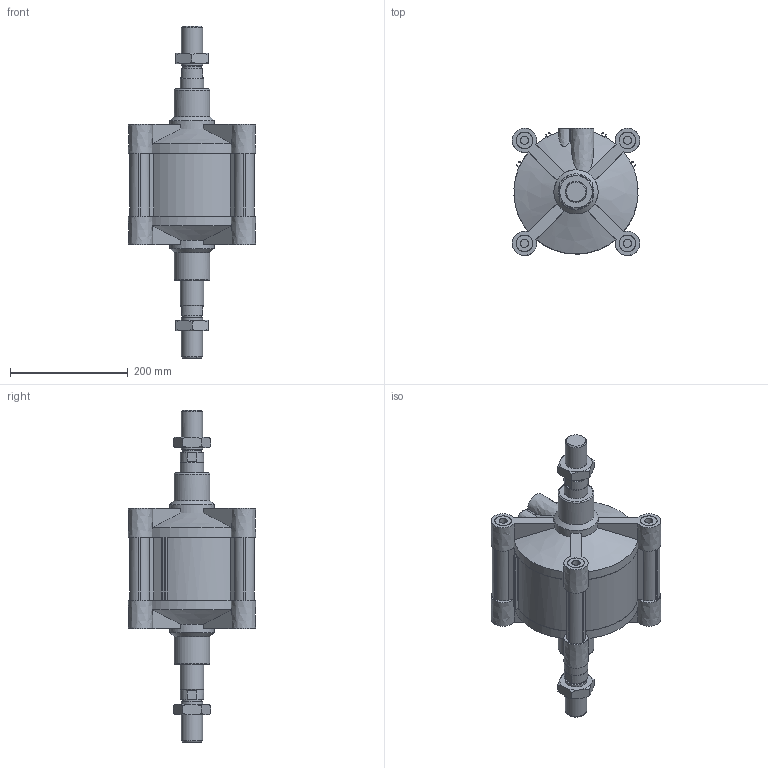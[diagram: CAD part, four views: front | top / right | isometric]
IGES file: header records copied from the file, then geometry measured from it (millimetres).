
Global section: file name: 139#_200_0025_02; native system: Autodesk Inventor 2014; preprocessor: unknown; author: F. Piloni; organization: Pneumax S.p.A.; date: 20151120.143140; units: millimetre
Bounding box: 216 x 216 x 564 mm (x, y, z)
Volume: 6668973.1 mm3; surface area: 736236.3 mm2
Topology: 6 solids, 6 shells, 324 faces, 844 edges, 567 vertices
Faces by surface type: bspline 324
